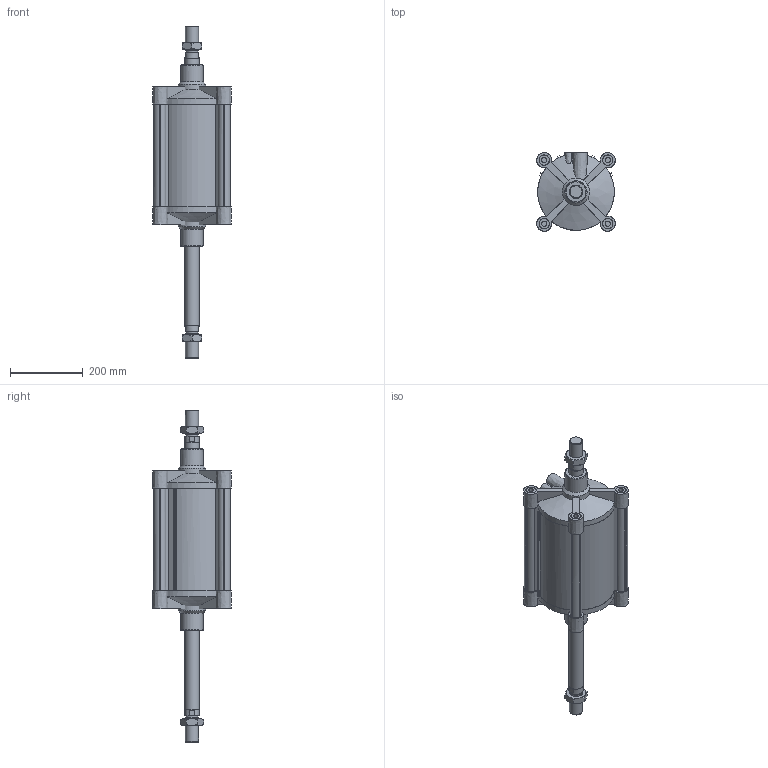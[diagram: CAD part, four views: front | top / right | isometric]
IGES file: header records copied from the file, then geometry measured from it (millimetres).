
Global section: file name: 139#_200_0200_02; native system: Autodesk Inventor 2014; preprocessor: unknown; author: F. Piloni; organization: Pneumax S.p.A.; date: 20151120.143217; units: millimetre
Bounding box: 216 x 216 x 914 mm (x, y, z)
Volume: 8054682.5 mm3; surface area: 1124090.3 mm2
Topology: 6 solids, 6 shells, 324 faces, 844 edges, 567 vertices
Faces by surface type: bspline 324
